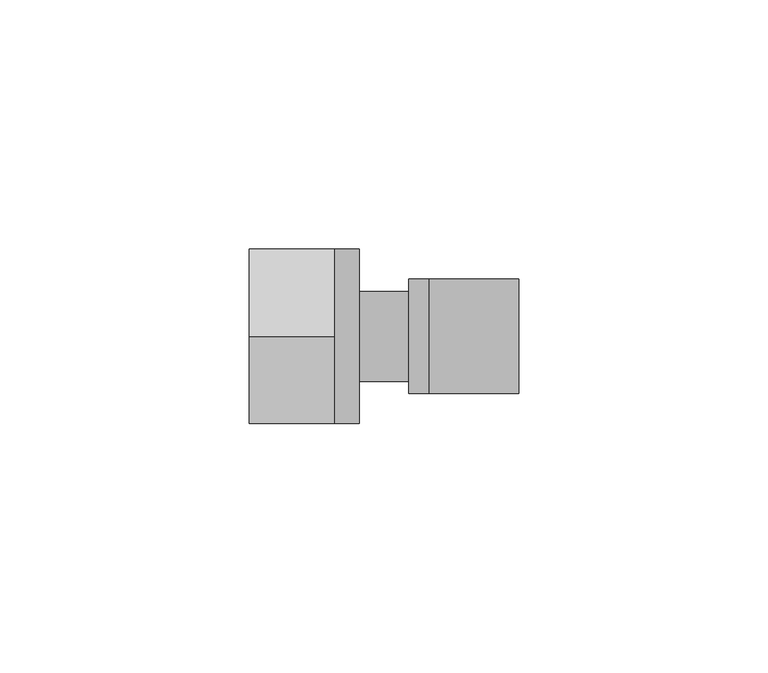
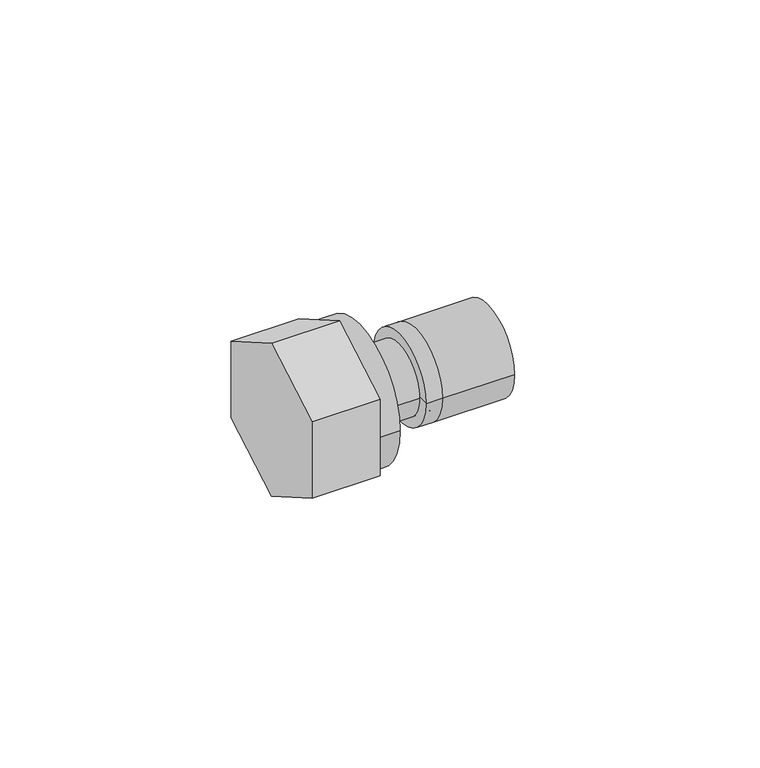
"""IFC4 building model written with IfcOpenShell, lengths in millimetres: pipe fitting geometry, KAN-therm Push złączka PPSU z gw : KAN-therm Push złączka PPSU z gw."""

from ifc_helpers import new_model, si_unit, frame, origin, place, context, project, spatial, polyline, circle_curve, outline, extrude, source, transform, mapped, element, save
from ifc_brep_helpers import plane_surface, cylinder_surface, advanced_brep


def pipe_fitting_43363160(model_context):
    return source(origin(), model_context, "Body", "SolidModel", [
        advanced_brep(
        [(24.0, -11.5, 0.0), (24.0, 11.5, 0.0), (24.0, 0.0, 0.0), (20.0, -11.5, 0.0), (20.0, 11.5, 0.0), (20.0, 0.0, 0.0)],
        [
            (0, 1, circle_curve(frame((24.0, 0.0, 0.0), z_axis=(1.0, 0.0, 0.0), x_axis=(0.0, 1.0, 0.0)), 11.5)),
            (1, 2),
            (2, 0),
            (1, 0, circle_curve(frame((24.0, 0.0, 0.0), z_axis=(1.0, 0.0, 0.0), x_axis=(0.0, 1.0, 0.0)), 11.5)),
            (3, 4, circle_curve(frame((20.0, 0.0, 0.0), z_axis=(1.0, 0.0, 0.0), x_axis=(0.0, 1.0, 0.0)), 11.5)),
            (4, 1),
            (0, 3),
            (4, 3, circle_curve(frame((20.0, 0.0, 0.0), z_axis=(1.0, 0.0, 0.0), x_axis=(0.0, 1.0, 0.0)), 11.5)),
            (5, 4),
            (3, 5),
        ],
        [
            plane_surface(frame((24.0, 0.0, 0.0), z_axis=(1.0, 0.0, 0.0), x_axis=(0.0, 1.0, 0.0))),
            cylinder_surface(frame((2019.0, 0.0, 0.0), z_axis=(-1.0, 0.0, 0.0), x_axis=(0.0, 1.0, 0.0)), 11.5),
            plane_surface(frame((20.0, 0.0, 0.0), z_axis=(-1.0, 0.0, 0.0), x_axis=(0.0, 1.0, 0.0))),
        ],
        [
            (0, [[1, 2, 3]]),
            (0, [[4, -3, -2]]),
            (1, [[5, 6, -1, 7]]),
            (1, [[8, -7, -4, -6]]),
            (2, [[9, -5, 10]]),
            (2, [[-10, -8, -9]]),
        ],
    ),
        advanced_brep(
        [(42.0, -11.5, 0.0), (42.0, 11.5, 0.0), (42.0, 0.0, 0.0), (24.0, -11.5, 0.0), (24.0, 11.5, 0.0), (24.0, 0.0, 0.0)],
        [
            (0, 1, circle_curve(frame((42.0, 0.0, 0.0), z_axis=(1.0, 0.0, 0.0), x_axis=(0.0, 1.0, 0.0)), 11.5)),
            (1, 2),
            (2, 0),
            (1, 0, circle_curve(frame((42.0, 0.0, 0.0), z_axis=(1.0, 0.0, 0.0), x_axis=(0.0, 1.0, 0.0)), 11.5)),
            (3, 4, circle_curve(frame((24.0, 0.0, 0.0), z_axis=(1.0, 0.0, 0.0), x_axis=(0.0, 1.0, 0.0)), 11.5)),
            (4, 1),
            (0, 3),
            (4, 3, circle_curve(frame((24.0, 0.0, 0.0), z_axis=(1.0, 0.0, 0.0), x_axis=(0.0, 1.0, 0.0)), 11.5)),
            (5, 4),
            (3, 5),
        ],
        [
            plane_surface(frame((42.0, 0.0, 0.0), z_axis=(1.0, 0.0, 0.0), x_axis=(0.0, 1.0, 0.0))),
            cylinder_surface(frame((2019.0, 0.0, 0.0), z_axis=(-1.0, 0.0, 0.0), x_axis=(0.0, 1.0, 0.0)), 11.5),
            plane_surface(frame((24.0, 0.0, 0.0), z_axis=(-1.0, 0.0, 0.0), x_axis=(0.0, 1.0, 0.0))),
        ],
        [
            (0, [[1, 2, 3]]),
            (0, [[4, -3, -2]]),
            (1, [[5, 6, -1, 7]]),
            (1, [[8, -7, -4, -6]]),
            (2, [[9, -5, 10]]),
            (2, [[-10, -8, -9]]),
        ],
    ),
        extrude(outline(polyline([(0.0, -20.2072594), (-17.5, -10.1036297), (-17.5, 10.1036297), (0.0, 20.2072594), (17.5, 10.1036297), (17.5, -10.1036297), (0.0, -20.2072594)])), frame((-12.0, 0.0, 0.0), z_axis=(1.0, 0.0, 0.0), x_axis=(0.0, 1.0, 0.0)), (0.0, 0.0, 1.0), 17.0),
        advanced_brep(
        [(24.0, -9.0, 0.0), (24.0, 9.0, 0.0), (24.0, 0.0, 0.0), (10.0, -9.0, 0.0), (10.0, 9.0, 0.0), (10.0, -17.5, 0.0), (10.0, 17.5, 0.0), (0.0, -17.5, 0.0), (0.0, 17.5, 0.0), (0.0, 0.0, 0.0)],
        [
            (0, 1, circle_curve(frame((24.0, 0.0, 0.0), z_axis=(1.0, 0.0, 0.0), x_axis=(0.0, 1.0, 0.0)), 9.0)),
            (1, 2),
            (2, 0),
            (1, 0, circle_curve(frame((24.0, 0.0, 0.0), z_axis=(1.0, 0.0, 0.0), x_axis=(0.0, 1.0, 0.0)), 9.0)),
            (3, 4, circle_curve(frame((10.0, 0.0, 0.0), z_axis=(1.0, 0.0, 0.0), x_axis=(0.0, 1.0, 0.0)), 9.0)),
            (4, 1),
            (0, 3),
            (4, 3, circle_curve(frame((10.0, 0.0, 0.0), z_axis=(1.0, 0.0, 0.0), x_axis=(0.0, 1.0, 0.0)), 9.0)),
            (5, 6, circle_curve(frame((10.0, 0.0, 0.0), z_axis=(1.0, 0.0, 0.0), x_axis=(0.0, 1.0, 0.0)), 17.5)),
            (6, 4),
            (3, 5),
            (6, 5, circle_curve(frame((10.0, 0.0, 0.0), z_axis=(1.0, 0.0, 0.0), x_axis=(0.0, 1.0, 0.0)), 17.5)),
            (7, 8, circle_curve(frame((0.0, 0.0, 0.0), z_axis=(1.0, 0.0, 0.0), x_axis=(0.0, 1.0, 0.0)), 17.5)),
            (8, 6),
            (5, 7),
            (8, 7, circle_curve(frame((0.0, 0.0, 0.0), z_axis=(1.0, 0.0, 0.0), x_axis=(0.0, 1.0, 0.0)), 17.5)),
            (9, 8),
            (7, 9),
        ],
        [
            plane_surface(frame((24.0, 0.0, 0.0), z_axis=(1.0, 0.0, 0.0), x_axis=(0.0, 1.0, 0.0))),
            cylinder_surface(frame((2008.0, 0.0, 0.0), z_axis=(-1.0, 0.0, 0.0), x_axis=(0.0, 1.0, 0.0)), 9.0),
            plane_surface(frame((10.0, 0.0, 0.0), z_axis=(1.0, 0.0, 0.0), x_axis=(0.0, 1.0, 0.0))),
            cylinder_surface(frame((2008.0, 0.0, 0.0), z_axis=(-1.0, 0.0, 0.0), x_axis=(0.0, 1.0, 0.0)), 17.5),
            plane_surface(frame((0.0, 0.0, 0.0), z_axis=(-1.0, 0.0, 0.0), x_axis=(0.0, 1.0, 0.0))),
        ],
        [
            (0, [[1, 2, 3]]),
            (0, [[4, -3, -2]]),
            (1, [[5, 6, -1, 7]]),
            (1, [[8, -7, -4, -6]]),
            (2, [[9, 10, -5, 11]]),
            (2, [[12, -11, -8, -10]]),
            (3, [[13, 14, -9, 15]]),
            (3, [[16, -15, -12, -14]]),
            (4, [[17, -13, 18]]),
            (4, [[-18, -16, -17]]),
        ],
    ),
    ])


if __name__ == "__main__":
    model = new_model("IFC4")
    model_context = context("Model", 3, world=origin())
    ifc_project = project(units=[si_unit("LENGTHUNIT", "METRE", prefix="MILLI")], contexts=[model_context])
    site = spatial("IfcSite", under=ifc_project)
    building = spatial("IfcBuilding", under=site)
    placement = place(None, origin())
    pipe_fitting_shape = pipe_fitting_43363160(model_context)
    element("IfcPipeFitting", 1, ObjectType="KAN-therm Push złączka PPSU z gw : KAN-therm Push złączka PPSU z gw", at=placement, inside=building, context=model_context, shape_type="MappedRepresentation", body=[
        mapped(pipe_fitting_shape, transform((0.0, 0.0, 0.0), x_axis=(1.0, 0.0, 0.0), y_axis=(0.0, 1.0, 0.0), z_axis=(0.0, 0.0, 1.0))),
    ])
    save(model, "model.ifc")
